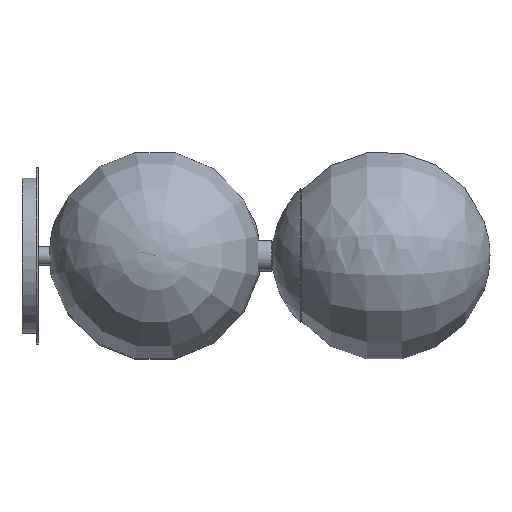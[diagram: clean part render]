
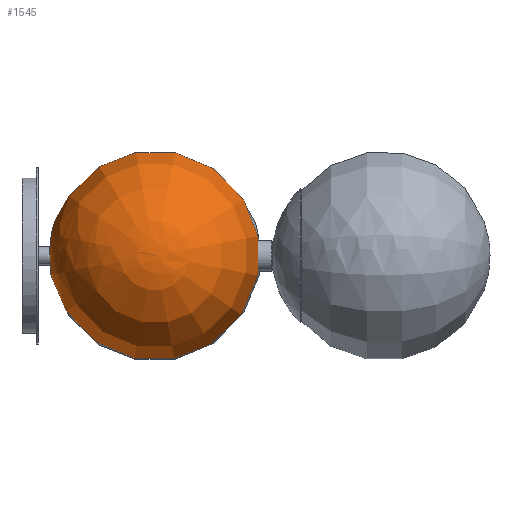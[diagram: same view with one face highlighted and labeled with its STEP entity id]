
A CAD part, top view. The second image highlights one B-rep face of the part: STEP entity #1545.
In plain terms, the highlighted free-form (B-spline) face has degree [2, 2] with [5, 9] control points.
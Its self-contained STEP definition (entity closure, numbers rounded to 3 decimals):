
#17=(
BOUNDED_SURFACE()
B_SPLINE_SURFACE(2,2,((#3010,#3011,#3012,#3013,#3014,#3015,#3016,#3017,
#3018),(#3019,#3020,#3021,#3022,#3023,#3024,#3025,#3026,#3027),(#3028,#3029,
#3030,#3031,#3032,#3033,#3034,#3035,#3036),(#3037,#3038,#3039,#3040,#3041,
#3042,#3043,#3044,#3045),(#3046,#3047,#3048,#3049,#3050,#3051,#3052,#3053,
#3054)),.UNSPECIFIED.,.F.,.T.,.F.)
B_SPLINE_SURFACE_WITH_KNOTS((3,2,3),(3,2,2,2,3),(-1.227,0.173,
1.572),(-3.142,-1.571,0.,1.571,
3.142),.UNSPECIFIED.)
GEOMETRIC_REPRESENTATION_ITEM()
RATIONAL_B_SPLINE_SURFACE(((1.,0.707,1.,0.707,1.,
0.707,1.,0.707,1.),(0.765,0.541,
0.765,0.541,0.765,0.541,
0.765,0.541,0.765),(1.,0.707,
1.,0.707,1.,0.707,1.,0.707,1.),(0.765,
0.541,0.765,0.541,0.765,
0.541,0.765,0.541,0.765),
(1.,0.707,1.,0.707,1.,0.707,1.,0.707,
1.)))
REPRESENTATION_ITEM('')
SURFACE()
);
#383=FACE_OUTER_BOUND('',#528,.T.);
#528=EDGE_LOOP('',(#1377,#1378,#1379));
#663=CIRCLE('',#1828,25.378);
#665=CIRCLE('',#1830,75.);
#796=VERTEX_POINT('',#3007);
#797=VERTEX_POINT('',#3055);
#990=EDGE_CURVE('',#796,#796,#663,.T.);
#992=EDGE_CURVE('',#797,#796,#665,.T.);
#1377=ORIENTED_EDGE('',*,*,#992,.T.);
#1378=ORIENTED_EDGE('',*,*,#990,.T.);
#1379=ORIENTED_EDGE('',*,*,#992,.F.);
#1545=ADVANCED_FACE('',(#383),#17,.F.);
#1828=AXIS2_PLACEMENT_3D('',#3008,#2383,#2384);
#1830=AXIS2_PLACEMENT_3D('',#3056,#2387,#2388);
#2383=DIRECTION('center_axis',(0.,0.,
1.));
#2384=DIRECTION('ref_axis',(-0.182,0.983,0.));
#2387=DIRECTION('center_axis',(0.182,-0.983,0.));
#2388=DIRECTION('ref_axis',(-0.983,-0.182,0.));
#3007=CARTESIAN_POINT('',(-24.956,-4.611,491.215));
#3008=CARTESIAN_POINT('Origin',(0.,0.,
491.215));
#3010=CARTESIAN_POINT('Ctrl Pts',(-24.956,-4.611,491.215));
#3011=CARTESIAN_POINT('Ctrl Pts',(-20.344,-29.567,491.215));
#3012=CARTESIAN_POINT('Ctrl Pts',(4.611,-24.956,491.215));
#3013=CARTESIAN_POINT('Ctrl Pts',(29.567,-20.344,491.215));
#3014=CARTESIAN_POINT('Ctrl Pts',(24.956,4.611,491.215));
#3015=CARTESIAN_POINT('Ctrl Pts',(20.344,29.567,491.215));
#3016=CARTESIAN_POINT('Ctrl Pts',(-4.611,24.956,491.215));
#3017=CARTESIAN_POINT('Ctrl Pts',(-29.567,20.344,491.215));
#3018=CARTESIAN_POINT('Ctrl Pts',(-24.956,-4.611,491.215));
#3019=CARTESIAN_POINT('Ctrl Pts',(-83.428,-15.416,512.491));
#3020=CARTESIAN_POINT('Ctrl Pts',(-68.012,-98.844,512.491));
#3021=CARTESIAN_POINT('Ctrl Pts',(15.416,-83.428,512.491));
#3022=CARTESIAN_POINT('Ctrl Pts',(98.844,-68.012,512.491));
#3023=CARTESIAN_POINT('Ctrl Pts',(83.428,15.416,512.491));
#3024=CARTESIAN_POINT('Ctrl Pts',(68.012,98.844,512.491));
#3025=CARTESIAN_POINT('Ctrl Pts',(-15.416,83.428,512.491));
#3026=CARTESIAN_POINT('Ctrl Pts',(-98.844,68.012,512.491));
#3027=CARTESIAN_POINT('Ctrl Pts',(-83.428,-15.416,512.491));
#3028=CARTESIAN_POINT('Ctrl Pts',(-72.765,-13.445,574.707));
#3029=CARTESIAN_POINT('Ctrl Pts',(-59.32,-86.211,574.707));
#3030=CARTESIAN_POINT('Ctrl Pts',(13.445,-72.765,574.707));
#3031=CARTESIAN_POINT('Ctrl Pts',(86.211,-59.32,574.707));
#3032=CARTESIAN_POINT('Ctrl Pts',(72.765,13.445,574.707));
#3033=CARTESIAN_POINT('Ctrl Pts',(59.32,86.211,574.707));
#3034=CARTESIAN_POINT('Ctrl Pts',(-13.445,72.765,574.707));
#3035=CARTESIAN_POINT('Ctrl Pts',(-86.211,59.32,574.707));
#3036=CARTESIAN_POINT('Ctrl Pts',(-72.765,-13.445,574.707));
#3037=CARTESIAN_POINT('Ctrl Pts',(-62.103,-11.475,636.923));
#3038=CARTESIAN_POINT('Ctrl Pts',(-50.627,-73.578,636.923));
#3039=CARTESIAN_POINT('Ctrl Pts',(11.475,-62.103,636.923));
#3040=CARTESIAN_POINT('Ctrl Pts',(73.578,-50.627,636.923));
#3041=CARTESIAN_POINT('Ctrl Pts',(62.103,11.475,636.923));
#3042=CARTESIAN_POINT('Ctrl Pts',(50.627,73.578,636.923));
#3043=CARTESIAN_POINT('Ctrl Pts',(-11.475,62.103,636.923));
#3044=CARTESIAN_POINT('Ctrl Pts',(-73.578,50.627,636.923));
#3045=CARTESIAN_POINT('Ctrl Pts',(-62.103,-11.475,636.923));
#3046=CARTESIAN_POINT('Ctrl Pts',(0.,0.,
636.83));
#3047=CARTESIAN_POINT('Ctrl Pts',(0.,0.,
636.83));
#3048=CARTESIAN_POINT('Ctrl Pts',(0.,0.,
636.83));
#3049=CARTESIAN_POINT('Ctrl Pts',(0.,0.,
636.83));
#3050=CARTESIAN_POINT('Ctrl Pts',(0.,0.,
636.83));
#3051=CARTESIAN_POINT('Ctrl Pts',(0.,0.,
636.83));
#3052=CARTESIAN_POINT('Ctrl Pts',(0.,0.,
636.83));
#3053=CARTESIAN_POINT('Ctrl Pts',(0.,0.,
636.83));
#3054=CARTESIAN_POINT('Ctrl Pts',(0.,0.,
636.83));
#3055=CARTESIAN_POINT('',(0.,0.,636.83));
#3056=CARTESIAN_POINT('Origin',(-0.109,-0.02,
561.83));
